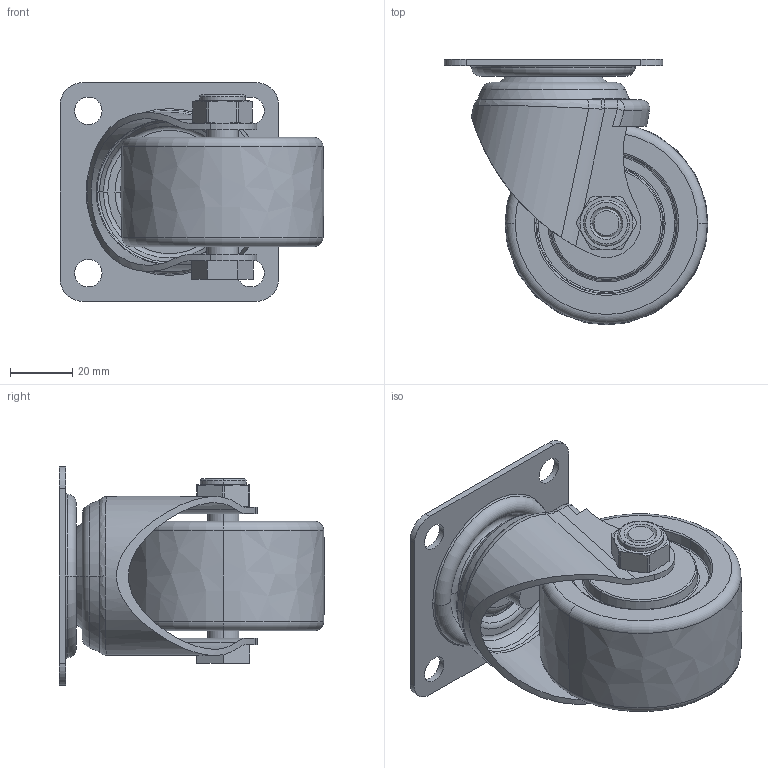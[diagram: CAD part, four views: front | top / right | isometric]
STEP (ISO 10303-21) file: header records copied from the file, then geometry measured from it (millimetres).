
FILE_DESCRIPTION((''),'2;1');
FILE_NAME('M413125_ASM','2022-01-19T',('lenovo'),(''),'PRO/ENGINEER BY PARAMETRIC TECHNOLOGY CORPORATION, 2010280','PRO/ENGINEER BY PARAMETRIC TECHNOLOGY CORPORATION, 2010280','');
FILE_SCHEMA(('CONFIG_CONTROL_DESIGN'));
Length unit declared in the file: millimetre
Products named in the file (7): M41365-311; M4130-201; M410-31; M4125-16; M410-20-M10X53; 630-34; M413125_ASM
Assembly tree (6 placements, depth 2):
  M413125_ASM
    M41365-311
    M4130-201
    M410-31
    M4125-16
    M410-20-M10X53
    630-34
Bounding box: 84.47 x 84.97 x 70 mm (x, y, z)
Volume: 138355.2 mm3; surface area: 45061.4 mm2
Topology: 6 solids, 6 shells, 217 faces, 491 edges, 296 vertices
Faces by surface type: torus 51, cylinder 49, plane 47, cone 42, bspline 26, sphere 2
Entity records: 8242 total; most frequent: CARTESIAN_POINT 3227, DIRECTION 1096, ORIENTED_EDGE 982, EDGE_CURVE 491, AXIS2_PLACEMENT_3D 485, VERTEX_POINT 296, CIRCLE 281, EDGE_LOOP 247
